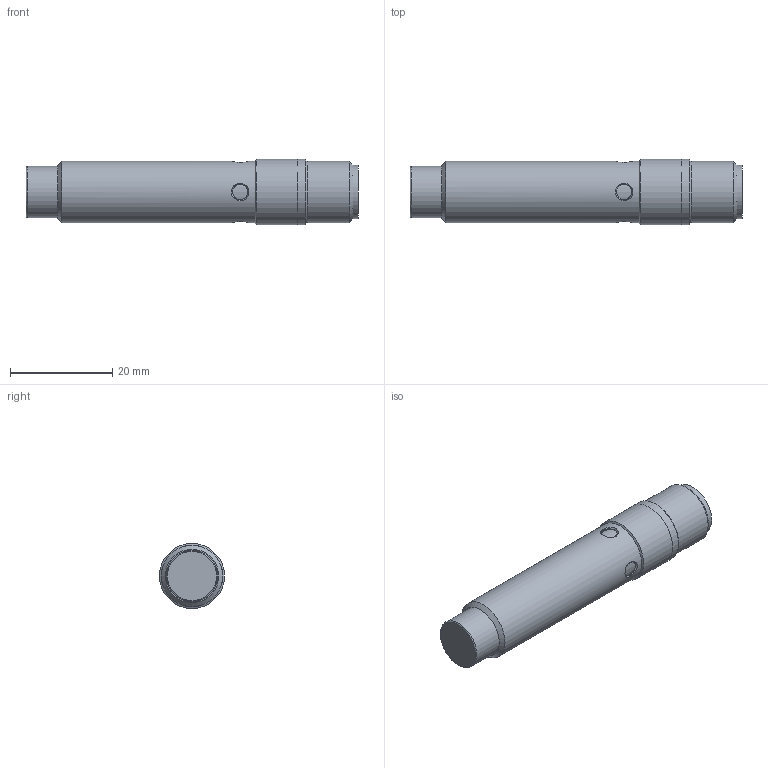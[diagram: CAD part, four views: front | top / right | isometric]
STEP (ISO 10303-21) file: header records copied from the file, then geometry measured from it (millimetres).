
FILE_DESCRIPTION(/* description */ (''),/* implementation_level */ '2;1');
FILE_NAME(/* name */ 'Z:\PG_031_033_365_369\031\progetti\_assemblies 3D\Contorno semplificato\ICS12\ics12_no_flush_asm.stp',/* time_stamp */ '2015-05-07T15:26:57+02:00',/* author */ ('ddecol'),/* organization */ (''),/* preprocessor_version */ 'ST-DEVELOPER v15.6',/* originating_system */ 'Autodesk Inventor 2015',/* authorisation */ '');
FILE_SCHEMA (('AUTOMOTIVE_DESIGN { 1 0 10303 214 3 1 1 }'));
Length unit declared in the file: millimetre
Products named in the file (1): ics12_no_flush_asm
Bounding box: 64.8 x 12.7 x 12.7 mm (x, y, z)
Surface area: 4320.5 mm2 (no closed solid volume)
Topology: 0 solids, 5 shells, 52 faces, 127 edges, 85 vertices
Faces by surface type: cylinder 18, plane 13, bspline 12, cone 8, torus 1
Full cylindrical faces by diameter (mm): 1.5 x4, 3 x4, 8.5 x1, 10 x1, 10.5 x1, 11 x1, 12 x2, 12.7 x2
Entity records: 2883 total; most frequent: CARTESIAN_POINT 1791, DIRECTION 178, ORIENTED_EDGE 169, EDGE_CURVE 95, EDGE_LOOP 90, AXIS2_PLACEMENT_3D 80, VERTEX_POINT 79, FACE_OUTER_BOUND 52
